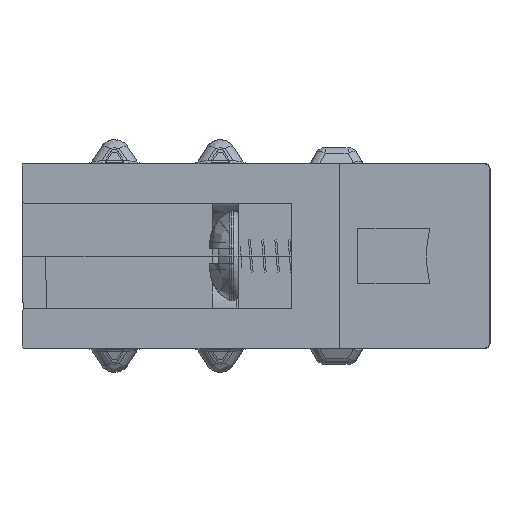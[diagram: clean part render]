
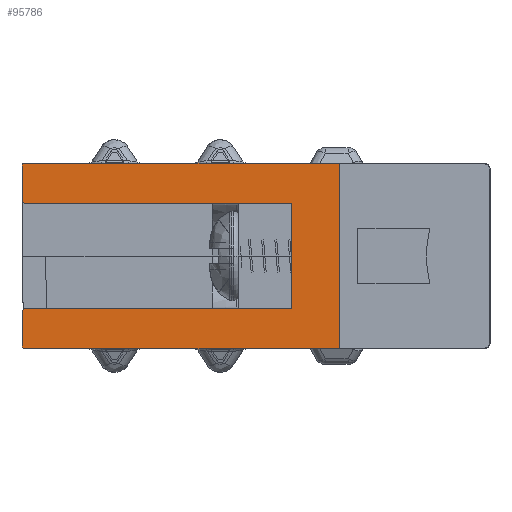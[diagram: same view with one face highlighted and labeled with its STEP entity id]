
A CAD part, left-side view. The second image highlights one B-rep face of the part: STEP entity #95786.
In plain terms, the highlighted planar face has unit normal (-1, 0, 0).
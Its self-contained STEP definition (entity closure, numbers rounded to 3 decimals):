
#1324 = CARTESIAN_POINT ( 'NONE',  ( -150., 3.7, -3.5 ) ) ;
#1485 = CARTESIAN_POINT ( 'NONE',  ( -150., 15.6, -3.4 ) ) ;
#1745 = ORIENTED_EDGE ( 'NONE', *, *, #109852, .T. ) ;
#1984 = EDGE_CURVE ( 'NONE', #54861, #89937, #78112, .T. ) ;
#2053 = DIRECTION ( 'NONE',  ( -1., 0., 0. ) ) ;
#2340 = DIRECTION ( 'NONE',  ( -1., 0., 0. ) ) ;
#2454 = LINE ( 'NONE', #1324, #72131 ) ;
#2903 = CARTESIAN_POINT ( 'NONE',  ( -150., 15.6, -2.1 ) ) ;
#3155 = LINE ( 'NONE', #54396, #69965 ) ;
#4402 = DIRECTION ( 'NONE',  ( 1., 0., 0. ) ) ;
#5836 = CARTESIAN_POINT ( 'NONE',  ( -150., 15.6, -2. ) ) ;
#7484 = CARTESIAN_POINT ( 'NONE',  ( -150., 15.6, 3.5 ) ) ;
#7681 = ORIENTED_EDGE ( 'NONE', *, *, #1984, .T. ) ;
#8194 = LINE ( 'NONE', #17303, #37556 ) ;
#8695 = VERTEX_POINT ( 'NONE', #40395 ) ;
#10927 = CIRCLE ( 'NONE', #101902, 0.1 ) ;
#11539 = EDGE_CURVE ( 'NONE', #28797, #34847, #14948, .T. ) ;
#14948 = CIRCLE ( 'NONE', #29502, 0.1 ) ;
#17142 = DIRECTION ( 'NONE',  ( 0., -1., 0. ) ) ;
#17303 = CARTESIAN_POINT ( 'NONE',  ( -150., 5.5, -2. ) ) ;
#19752 = DIRECTION ( 'NONE',  ( -1., 0., 0. ) ) ;
#21814 = AXIS2_PLACEMENT_3D ( 'NONE', #34566, #69262, #103971 ) ;
#22620 = ORIENTED_EDGE ( 'NONE', *, *, #77505, .F. ) ;
#24322 = CARTESIAN_POINT ( 'NONE',  ( -150., 3.7, -3.5 ) ) ;
#25299 = DIRECTION ( 'NONE',  ( 0., 0., 1. ) ) ;
#25615 = CARTESIAN_POINT ( 'NONE',  ( -150., 15.7, -3.4 ) ) ;
#26725 = EDGE_CURVE ( 'NONE', #54861, #60799, #60421, .T. ) ;
#28738 = CARTESIAN_POINT ( 'NONE',  ( -150., 3.7, -3.5 ) ) ;
#28797 = VERTEX_POINT ( 'NONE', #50501 ) ;
#29460 = DIRECTION ( 'NONE',  ( 0., 1., 0. ) ) ;
#29502 = AXIS2_PLACEMENT_3D ( 'NONE', #55575, #19752, #54466 ) ;
#33821 = DIRECTION ( 'NONE',  ( 0., 0., 1. ) ) ;
#34566 = CARTESIAN_POINT ( 'NONE',  ( -150., 15.6, 3.4 ) ) ;
#34847 = VERTEX_POINT ( 'NONE', #58963 ) ;
#35020 = EDGE_LOOP ( 'NONE', ( #111062, #7681, #76272, #108906, #22620, #103966, #50879, #39138, #58600, #1745, #38229, #100728 ) ) ;
#35513 = CARTESIAN_POINT ( 'NONE',  ( -150., 15.7, -3.4 ) ) ;
#37556 = VECTOR ( 'NONE', #25299, 1000. ) ;
#37881 = DIRECTION ( 'NONE',  ( 0., 1., 0. ) ) ;
#38229 = ORIENTED_EDGE ( 'NONE', *, *, #66313, .F. ) ;
#38397 = CIRCLE ( 'NONE', #78360, 0.1 ) ;
#38880 = CARTESIAN_POINT ( 'NONE',  ( -150., 15.6, -2. ) ) ;
#39095 = DIRECTION ( 'NONE',  ( 0., 0., 1. ) ) ;
#39138 = ORIENTED_EDGE ( 'NONE', *, *, #109205, .T. ) ;
#39222 = VERTEX_POINT ( 'NONE', #102295 ) ;
#40395 = CARTESIAN_POINT ( 'NONE',  ( -150., 5.5, 2. ) ) ;
#40441 = VERTEX_POINT ( 'NONE', #45365 ) ;
#41132 = EDGE_CURVE ( 'NONE', #28797, #89937, #83458, .T. ) ;
#45365 = CARTESIAN_POINT ( 'NONE',  ( -150., 5.5, -2. ) ) ;
#47419 = VERTEX_POINT ( 'NONE', #24322 ) ;
#48186 = VERTEX_POINT ( 'NONE', #25615 ) ;
#48574 = VECTOR ( 'NONE', #53774, 1000. ) ;
#49760 = VECTOR ( 'NONE', #93470, 1000. ) ;
#50501 = CARTESIAN_POINT ( 'NONE',  ( -150., 15.7, 2.1 ) ) ;
#50879 = ORIENTED_EDGE ( 'NONE', *, *, #87487, .F. ) ;
#51515 = VECTOR ( 'NONE', #33821, 1000. ) ;
#53774 = DIRECTION ( 'NONE',  ( 0., 1., 0. ) ) ;
#54396 = CARTESIAN_POINT ( 'NONE',  ( -150., 5.5, 2. ) ) ;
#54466 = DIRECTION ( 'NONE',  ( 0., 1., 0. ) ) ;
#54861 = VERTEX_POINT ( 'NONE', #68770 ) ;
#55575 = CARTESIAN_POINT ( 'NONE',  ( -150., 15.6, 2.1 ) ) ;
#55635 = CARTESIAN_POINT ( 'NONE',  ( -150., 0., 0. ) ) ;
#58045 = EDGE_CURVE ( 'NONE', #48186, #39222, #94724, .T. ) ;
#58158 = VERTEX_POINT ( 'NONE', #38880 ) ;
#58600 = ORIENTED_EDGE ( 'NONE', *, *, #58045, .F. ) ;
#58963 = CARTESIAN_POINT ( 'NONE',  ( -150., 15.6, 2. ) ) ;
#60220 = VERTEX_POINT ( 'NONE', #98338 ) ;
#60421 = LINE ( 'NONE', #7484, #108479 ) ;
#60799 = VERTEX_POINT ( 'NONE', #70187 ) ;
#63375 = DIRECTION ( 'NONE',  ( 0., 0., 1. ) ) ;
#63537 = DIRECTION ( 'NONE',  ( 0., 1., 0. ) ) ;
#63992 = EDGE_CURVE ( 'NONE', #47419, #60799, #2454, .T. ) ;
#66313 = EDGE_CURVE ( 'NONE', #47419, #60220, #106697, .T. ) ;
#66393 = FACE_OUTER_BOUND ( 'NONE', #35020, .T. ) ;
#68770 = CARTESIAN_POINT ( 'NONE',  ( -150., 15.6, 3.5 ) ) ;
#69262 = DIRECTION ( 'NONE',  ( -1., 0., 0. ) ) ;
#69965 = VECTOR ( 'NONE', #37881, 1000. ) ;
#70187 = CARTESIAN_POINT ( 'NONE',  ( -150., 3.7, 3.5 ) ) ;
#72131 = VECTOR ( 'NONE', #63375, 1000. ) ;
#74391 = PLANE ( 'NONE',  #76155 ) ;
#76155 = AXIS2_PLACEMENT_3D ( 'NONE', #55635, #4402, #29460 ) ;
#76272 = ORIENTED_EDGE ( 'NONE', *, *, #41132, .F. ) ;
#77505 = EDGE_CURVE ( 'NONE', #8695, #34847, #3155, .T. ) ;
#78112 = CIRCLE ( 'NONE', #21814, 0.1 ) ;
#78360 = AXIS2_PLACEMENT_3D ( 'NONE', #1485, #2053, #63537 ) ;
#78987 = EDGE_CURVE ( 'NONE', #40441, #8695, #8194, .T. ) ;
#81992 = CARTESIAN_POINT ( 'NONE',  ( -150., 15.7, 3.4 ) ) ;
#82331 = CARTESIAN_POINT ( 'NONE',  ( -150., 15.7, 2.1 ) ) ;
#83458 = LINE ( 'NONE', #82331, #92200 ) ;
#83812 = LINE ( 'NONE', #5836, #49760 ) ;
#87487 = EDGE_CURVE ( 'NONE', #58158, #40441, #83812, .T. ) ;
#89937 = VERTEX_POINT ( 'NONE', #81992 ) ;
#92200 = VECTOR ( 'NONE', #39095, 1000. ) ;
#93470 = DIRECTION ( 'NONE',  ( 0., -1., 0. ) ) ;
#94724 = LINE ( 'NONE', #35513, #51515 ) ;
#95786 = ADVANCED_FACE ( 'NONE', ( #66393 ), #74391, .F. ) ;
#98338 = CARTESIAN_POINT ( 'NONE',  ( -150., 15.6, -3.5 ) ) ;
#99061 = DIRECTION ( 'NONE',  ( 0., 0., 1. ) ) ;
#100728 = ORIENTED_EDGE ( 'NONE', *, *, #63992, .T. ) ;
#101902 = AXIS2_PLACEMENT_3D ( 'NONE', #2903, #2340, #99061 ) ;
#102295 = CARTESIAN_POINT ( 'NONE',  ( -150., 15.7, -2.1 ) ) ;
#103966 = ORIENTED_EDGE ( 'NONE', *, *, #78987, .F. ) ;
#103971 = DIRECTION ( 'NONE',  ( 0., 0., 1. ) ) ;
#106697 = LINE ( 'NONE', #28738, #48574 ) ;
#108479 = VECTOR ( 'NONE', #17142, 1000. ) ;
#108906 = ORIENTED_EDGE ( 'NONE', *, *, #11539, .T. ) ;
#109205 = EDGE_CURVE ( 'NONE', #58158, #39222, #10927, .T. ) ;
#109852 = EDGE_CURVE ( 'NONE', #48186, #60220, #38397, .T. ) ;
#111062 = ORIENTED_EDGE ( 'NONE', *, *, #26725, .F. ) ;
